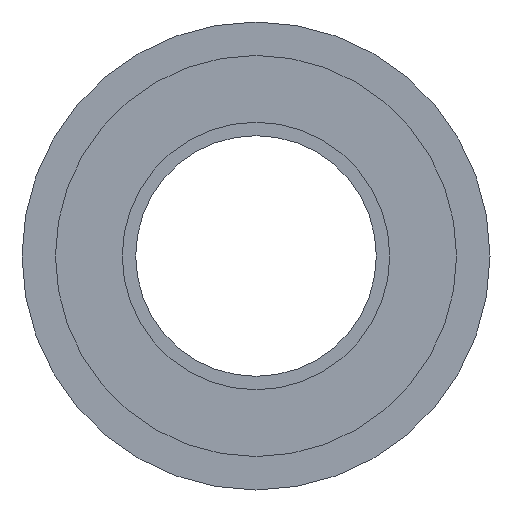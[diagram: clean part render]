
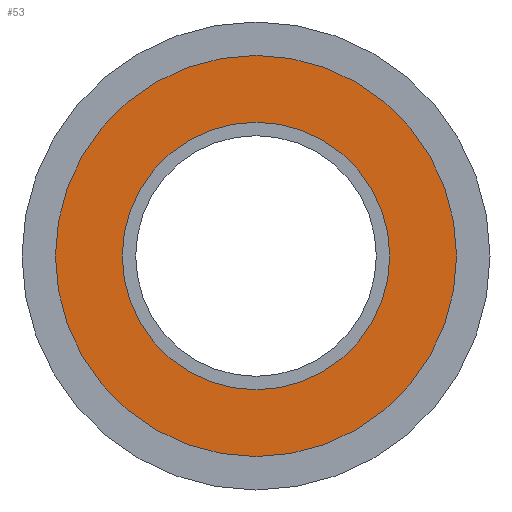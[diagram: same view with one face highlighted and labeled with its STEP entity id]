
A CAD part, left-side view. The second image highlights one B-rep face of the part: STEP entity #53.
In plain terms, the highlighted planar face has unit normal (-1, 0, 0).
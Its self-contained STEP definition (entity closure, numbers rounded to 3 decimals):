
#29 = DIRECTION ( 'NONE',  ( 0., 0., 1. ) ) ;
#37 = CARTESIAN_POINT ( 'NONE',  ( 3., 0., -15. ) ) ;
#53 = ADVANCED_FACE ( 'NONE', ( #206, #118 ), #213, .F. ) ;
#56 = VERTEX_POINT ( 'NONE', #369 ) ;
#59 = DIRECTION ( 'NONE',  ( -1., 0., 0. ) ) ;
#93 = VERTEX_POINT ( 'NONE', #37 ) ;
#113 = AXIS2_PLACEMENT_3D ( 'NONE', #162, #281, #519 ) ;
#116 = EDGE_CURVE ( 'NONE', #374, #56, #515, .T. ) ;
#118 = FACE_OUTER_BOUND ( 'NONE', #231, .T. ) ;
#139 = EDGE_CURVE ( 'NONE', #56, #374, #172, .T. ) ;
#149 = DIRECTION ( 'NONE',  ( -1., 0., 0. ) ) ;
#157 = DIRECTION ( 'NONE',  ( 1., 0., 0. ) ) ;
#162 = CARTESIAN_POINT ( 'NONE',  ( 3., 0., 0. ) ) ;
#168 = ORIENTED_EDGE ( 'NONE', *, *, #292, .T. ) ;
#172 = CIRCLE ( 'NONE', #113, 10. ) ;
#179 = ORIENTED_EDGE ( 'NONE', *, *, #116, .F. ) ;
#195 = DIRECTION ( 'NONE',  ( 0., 0., -1. ) ) ;
#206 = FACE_BOUND ( 'NONE', #413, .T. ) ;
#209 = ORIENTED_EDGE ( 'NONE', *, *, #139, .F. ) ;
#213 = PLANE ( 'NONE',  #363 ) ;
#231 = EDGE_LOOP ( 'NONE', ( #168, #373 ) ) ;
#267 = AXIS2_PLACEMENT_3D ( 'NONE', #368, #149, #365 ) ;
#270 = CARTESIAN_POINT ( 'NONE',  ( 3., 0., 0. ) ) ;
#281 = DIRECTION ( 'NONE',  ( -1., 0., 0. ) ) ;
#286 = EDGE_CURVE ( 'NONE', #93, #301, #525, .T. ) ;
#292 = EDGE_CURVE ( 'NONE', #301, #93, #494, .T. ) ;
#301 = VERTEX_POINT ( 'NONE', #480 ) ;
#363 = AXIS2_PLACEMENT_3D ( 'NONE', #509, #157, #195 ) ;
#365 = DIRECTION ( 'NONE',  ( 0., 0., 1. ) ) ;
#368 = CARTESIAN_POINT ( 'NONE',  ( 3., 0., 0. ) ) ;
#369 = CARTESIAN_POINT ( 'NONE',  ( 3., 0., -10. ) ) ;
#373 = ORIENTED_EDGE ( 'NONE', *, *, #286, .T. ) ;
#374 = VERTEX_POINT ( 'NONE', #523 ) ;
#413 = EDGE_LOOP ( 'NONE', ( #179, #209 ) ) ;
#473 = AXIS2_PLACEMENT_3D ( 'NONE', #516, #502, #29 ) ;
#480 = CARTESIAN_POINT ( 'NONE',  ( 3., 0., 15. ) ) ;
#494 = CIRCLE ( 'NONE', #473, 15. ) ;
#502 = DIRECTION ( 'NONE',  ( -1., 0., 0. ) ) ;
#509 = CARTESIAN_POINT ( 'NONE',  ( 3., 10., 0. ) ) ;
#515 = CIRCLE ( 'NONE', #267, 10. ) ;
#516 = CARTESIAN_POINT ( 'NONE',  ( 3., 0., 0. ) ) ;
#519 = DIRECTION ( 'NONE',  ( 0., 0., 1. ) ) ;
#523 = CARTESIAN_POINT ( 'NONE',  ( 3., 0., 10. ) ) ;
#525 = CIRCLE ( 'NONE', #529, 15. ) ;
#526 = DIRECTION ( 'NONE',  ( 0., 0., 1. ) ) ;
#529 = AXIS2_PLACEMENT_3D ( 'NONE', #270, #59, #526 ) ;
